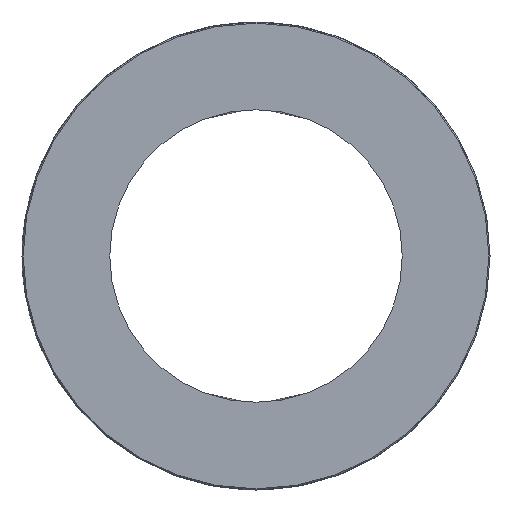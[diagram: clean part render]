
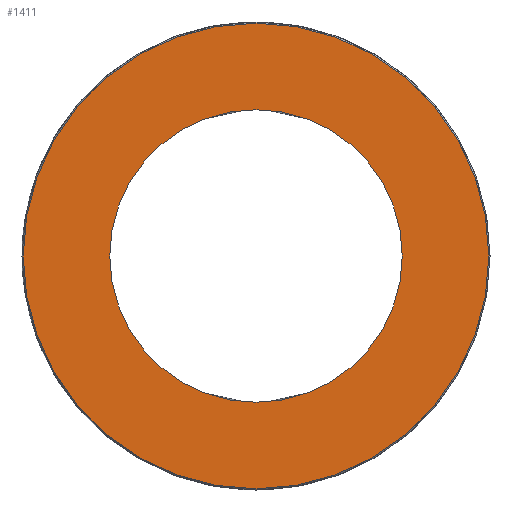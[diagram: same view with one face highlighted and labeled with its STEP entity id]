
A CAD part, left-side view. The second image highlights one B-rep face of the part: STEP entity #1411.
In plain terms, the highlighted planar face has unit normal (-1, 0, 0) as drawn and (0, 0, 1) by its records, which use the part's own axes.
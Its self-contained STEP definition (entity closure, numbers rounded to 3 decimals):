
#12 = ORIENTED_EDGE ( 'NONE', *, *, #307, .F. ) ;
#18 = CARTESIAN_POINT ( 'NONE',  ( -39.8, 0., 15. ) ) ;
#66 = FACE_BOUND ( 'NONE', #1201, .T. ) ;
#84 = EDGE_CURVE ( 'NONE', #811, #941, #281, .T. ) ;
#96 = CARTESIAN_POINT ( 'NONE',  ( 0., 0., 15. ) ) ;
#111 = DIRECTION ( 'NONE',  ( 0., 0., 1. ) ) ;
#174 = DIRECTION ( 'NONE',  ( 0., 0., 1. ) ) ;
#181 = CARTESIAN_POINT ( 'NONE',  ( 39.8, 0., 15. ) ) ;
#197 = DIRECTION ( 'NONE',  ( 1., 0., 0. ) ) ;
#217 = DIRECTION ( 'NONE',  ( 0., 0., 1. ) ) ;
#219 = AXIS2_PLACEMENT_3D ( 'NONE', #629, #174, #478 ) ;
#220 = DIRECTION ( 'NONE',  ( 1., 0., 0. ) ) ;
#281 = CIRCLE ( 'NONE', #450, 39.8 ) ;
#300 = CARTESIAN_POINT ( 'NONE',  ( 25., 0., 15. ) ) ;
#303 = AXIS2_PLACEMENT_3D ( 'NONE', #1354, #340, #1308 ) ;
#307 = EDGE_CURVE ( 'NONE', #1178, #770, #1891, .T. ) ;
#316 = AXIS2_PLACEMENT_3D ( 'NONE', #96, #111, #391 ) ;
#340 = DIRECTION ( 'NONE',  ( 0., 0., 1. ) ) ;
#391 = DIRECTION ( 'NONE',  ( 1., 0., 0. ) ) ;
#450 = AXIS2_PLACEMENT_3D ( 'NONE', #1473, #217, #197 ) ;
#478 = DIRECTION ( 'NONE',  ( 1., 0., 0. ) ) ;
#552 = EDGE_CURVE ( 'NONE', #941, #811, #896, .T. ) ;
#629 = CARTESIAN_POINT ( 'NONE',  ( 0., 0., 15. ) ) ;
#770 = VERTEX_POINT ( 'NONE', #300 ) ;
#772 = CARTESIAN_POINT ( 'NONE',  ( -25., 0., 15. ) ) ;
#811 = VERTEX_POINT ( 'NONE', #181 ) ;
#896 = CIRCLE ( 'NONE', #316, 39.8 ) ;
#941 = VERTEX_POINT ( 'NONE', #18 ) ;
#1037 = FACE_OUTER_BOUND ( 'NONE', #1566, .T. ) ;
#1048 = PLANE ( 'NONE',  #1890 ) ;
#1149 = ORIENTED_EDGE ( 'NONE', *, *, #552, .T. ) ;
#1178 = VERTEX_POINT ( 'NONE', #772 ) ;
#1201 = EDGE_LOOP ( 'NONE', ( #12, #1372 ) ) ;
#1213 = ORIENTED_EDGE ( 'NONE', *, *, #84, .T. ) ;
#1308 = DIRECTION ( 'NONE',  ( 1., 0., 0. ) ) ;
#1354 = CARTESIAN_POINT ( 'NONE',  ( 0., 0., 15. ) ) ;
#1372 = ORIENTED_EDGE ( 'NONE', *, *, #1754, .F. ) ;
#1411 = ADVANCED_FACE ( 'NONE', ( #1037, #66 ), #1048, .T. ) ;
#1473 = CARTESIAN_POINT ( 'NONE',  ( 0., 0., 15. ) ) ;
#1504 = DIRECTION ( 'NONE',  ( 0., 0., 1. ) ) ;
#1566 = EDGE_LOOP ( 'NONE', ( #1149, #1213 ) ) ;
#1669 = CARTESIAN_POINT ( 'NONE',  ( 0., 0., 15. ) ) ;
#1754 = EDGE_CURVE ( 'NONE', #770, #1178, #1848, .T. ) ;
#1848 = CIRCLE ( 'NONE', #303, 25. ) ;
#1890 = AXIS2_PLACEMENT_3D ( 'NONE', #1669, #1504, #220 ) ;
#1891 = CIRCLE ( 'NONE', #219, 25. ) ;
